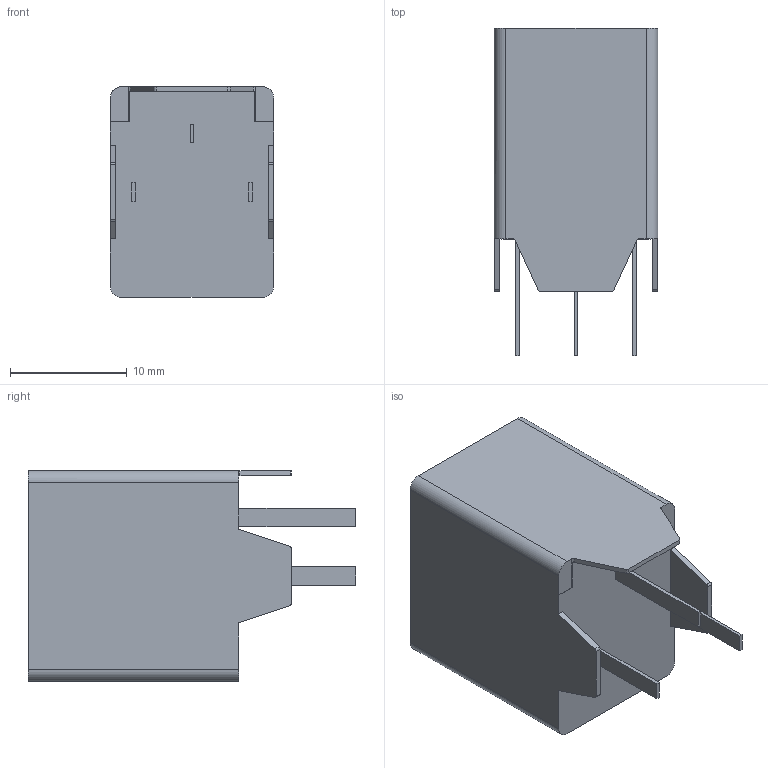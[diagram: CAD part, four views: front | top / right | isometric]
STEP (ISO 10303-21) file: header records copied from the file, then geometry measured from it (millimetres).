
FILE_DESCRIPTION (( 'STEP AP203' ), '1' );
FILE_NAME ('MZ73.STEP', '2026-02-22T00:10:08', ( '' ), ( '' ), 'SwSTEP 2.0', 'SolidWorks 2025', '' );
FILE_SCHEMA (( 'CONFIG_CONTROL_DESIGN' ));
Length unit declared in the file: millimetre
Products named in the file (1): MZ73
Bounding box: 14 x 28 x 18 mm (x, y, z)
Volume: 4579.6 mm3; surface area: 1937 mm2
Topology: 1 solids, 1 shells, 49 faces, 130 edges, 86 vertices
Faces by surface type: plane 37, cylinder 12
Entity records: 1589 total; most frequent: CARTESIAN_POINT 272, ORIENTED_EDGE 260, DIRECTION 252, EDGE_CURVE 130, VECTOR 104, LINE 104, VERTEX_POINT 86, AXIS2_PLACEMENT_3D 74
